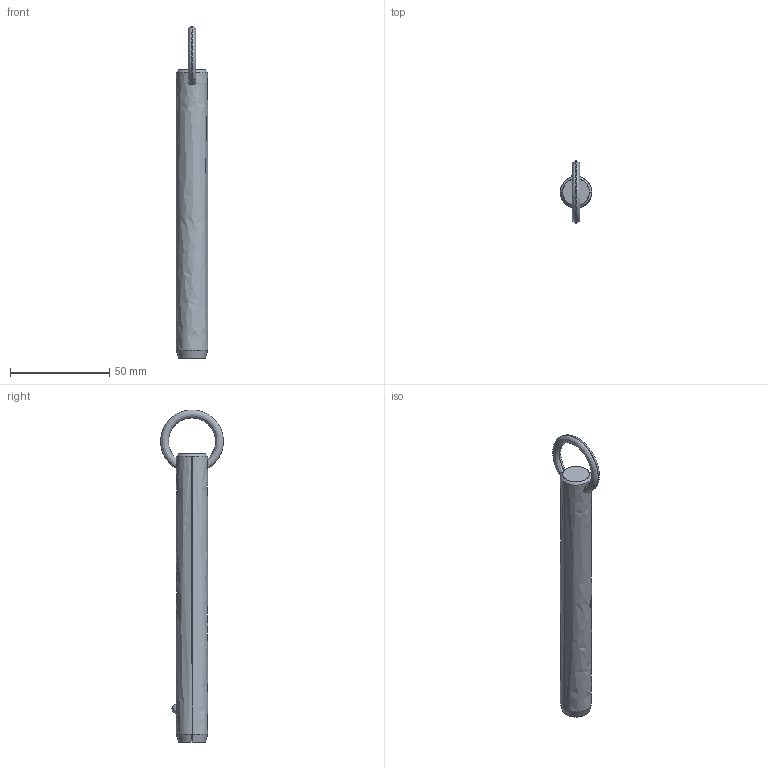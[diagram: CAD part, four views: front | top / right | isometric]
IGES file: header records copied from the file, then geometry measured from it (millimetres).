
Start section: SolidWorks IGES file using analytic representation for surfaces
Global section: file name: C:\Users\liam_\OneDrive\Documents\WORK\Work for WixRoyd\Job Files\J-00019 - Matt Davis CAD Checking\04. CAD Drawings\automotion20190605\P1250.2_v2\P1250.2_v2_20190729_IGES\P1250.062-460.igs; native system: SolidWorks 2017; preprocessor: SolidWorks 2017; author: liam_; date: 190729.233816; units: millimetre
Bounding box: 15.8 x 31.66 x 167.5 mm (x, y, z)
Surface area: 8386.1 mm2 (no closed solid volume)
Topology: 0 solids, 0 shells, 12 faces, 292 edges, 290 vertices
Faces by surface type: revolution 8, bspline 4
